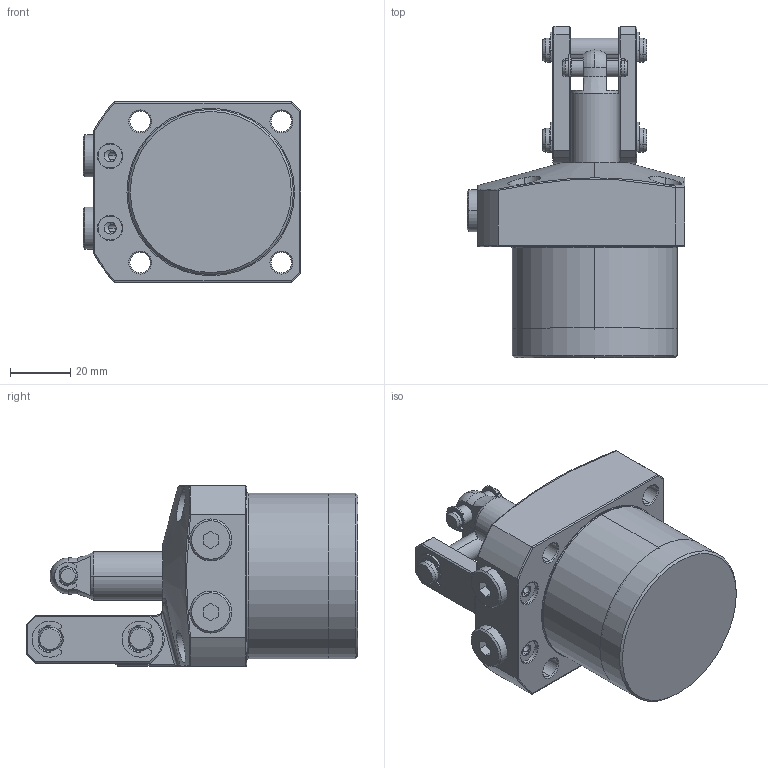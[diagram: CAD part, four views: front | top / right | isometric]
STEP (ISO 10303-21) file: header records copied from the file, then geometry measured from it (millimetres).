
FILE_DESCRIPTION(/* description */ (''),/* implementation_level */ '2;1');
FILE_NAME(/* name */ 'KTPC55-L.stp',/* time_stamp */ '2022-11-18T14:58:51+08:00',/* author */ (''),/* organization */ (''),/* preprocessor_version */ 'ST-DEVELOPER v16.7',/* originating_system */ 'SIEMENS PLM Software NX 12.0',/* authorisation */ '');
FILE_SCHEMA (('AP203_CONFIGURATION_CONTROLLED_3D_DESIGN_OF_MECHANICAL_PARTS_AND_ASSEMBLIES_MIM_LF { 1 0 10303 403 2 1 2}'));
Length unit declared in the file: millimetre
Products named in the file (10): KTPC55-L-06; KTPC55-L-09; KTPC55-L-07; KTPC55-L-08; KTPC55-L-03; KTPC55-L-02; KTPC55-L-04; KTPC55-L-05; KTPC55-L-01; LKA0550-CL_step
Assembly tree (16 placements, depth 2):
  LKA0550-CL_step
    KTPC55-L-01
    KTPC55-L-05  x2
    KTPC55-L-04  x2
    KTPC55-L-02
    KTPC55-L-03
    KTPC55-L-08  x4
    KTPC55-L-07  x2
    KTPC55-L-09  x2
    KTPC55-L-06
Bounding box: 72.5 x 110.5 x 60 mm (x, y, z)
Volume: 268017.7 mm3; surface area: 44493.1 mm2
Topology: 16 solids, 16 shells, 563 faces, 1357 edges, 848 vertices
Faces by surface type: cylinder 236, plane 175, cone 73, torus 60, bspline 17, sphere 2
Full cylindrical faces by diameter (mm): 55 x1
Entity records: 12706 total; most frequent: CARTESIAN_POINT 3106, DIRECTION 1815, ORIENTED_EDGE 1674, EDGE_CURVE 837, AXIS2_PLACEMENT_3D 737, VERTEX_POINT 518, EDGE_LOOP 395, CIRCLE 381
